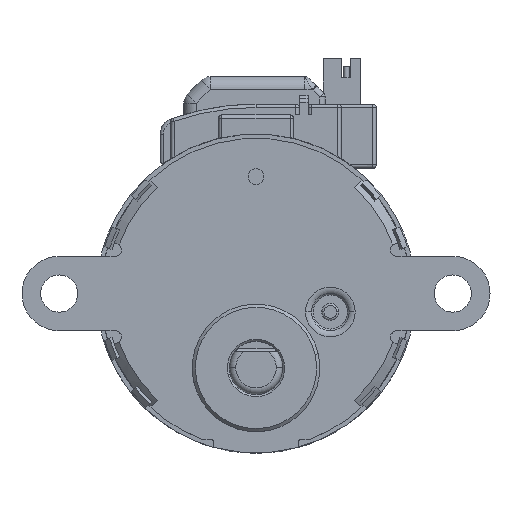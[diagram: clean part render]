
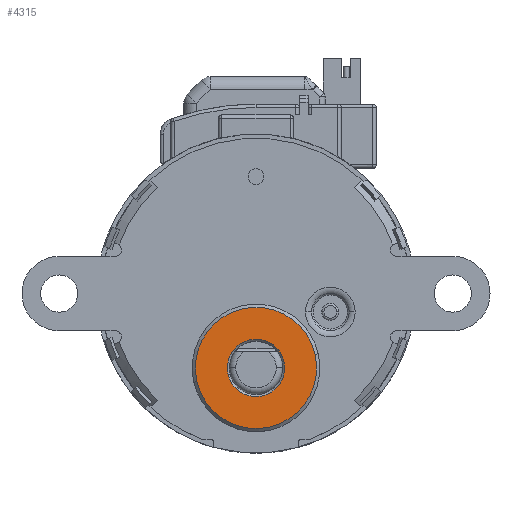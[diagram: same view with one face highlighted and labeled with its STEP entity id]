
A CAD part, top view. The second image highlights one B-rep face of the part: STEP entity #4315.
In plain terms, the highlighted planar face has unit normal (0, 0, 1).
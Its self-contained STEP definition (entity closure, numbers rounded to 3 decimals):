
#823 = EDGE_CURVE ( 'NONE', #4599, #3152, #9468, .T. ) ;
#864 = AXIS2_PLACEMENT_3D ( 'NONE', #8514, #5599, #4715 ) ;
#1273 = FACE_BOUND ( 'NONE', #9386, .T. ) ;
#1481 = CIRCLE ( 'NONE', #4502, 2.7 ) ;
#1693 = CARTESIAN_POINT ( 'NONE',  ( 0., -7., 20.5 ) ) ;
#1720 = EDGE_LOOP ( 'NONE', ( #3961, #10064 ) ) ;
#2042 = PLANE ( 'NONE',  #11708 ) ;
#2101 = FACE_OUTER_BOUND ( 'NONE', #1720, .T. ) ;
#2514 = EDGE_CURVE ( 'NONE', #8099, #9576, #1481, .T. ) ;
#2585 = EDGE_CURVE ( 'NONE', #3152, #4599, #2887, .T. ) ;
#2887 = CIRCLE ( 'NONE', #864, 5.7 ) ;
#3152 = VERTEX_POINT ( 'NONE', #8345 ) ;
#3293 = EDGE_CURVE ( 'NONE', #9576, #8099, #5137, .T. ) ;
#3470 = DIRECTION ( 'NONE',  ( 0., 0., -1. ) ) ;
#3961 = ORIENTED_EDGE ( 'NONE', *, *, #823, .T. ) ;
#4315 = ADVANCED_FACE ( 'NONE', ( #2101, #1273 ), #2042, .T. ) ;
#4502 = AXIS2_PLACEMENT_3D ( 'NONE', #4658, #5537, #12310 ) ;
#4599 = VERTEX_POINT ( 'NONE', #7530 ) ;
#4658 = CARTESIAN_POINT ( 'NONE',  ( 0., -7., 20.5 ) ) ;
#4715 = DIRECTION ( 'NONE',  ( 0.974, 0.226, 0. ) ) ;
#4759 = AXIS2_PLACEMENT_3D ( 'NONE', #9989, #10989, #5253 ) ;
#4940 = AXIS2_PLACEMENT_3D ( 'NONE', #1693, #3470, #7770 ) ;
#4955 = DIRECTION ( 'NONE',  ( 1., 0., 0. ) ) ;
#5137 = CIRCLE ( 'NONE', #4940, 2.7 ) ;
#5253 = DIRECTION ( 'NONE',  ( 0.974, 0.226, 0. ) ) ;
#5537 = DIRECTION ( 'NONE',  ( 0., 0., -1. ) ) ;
#5599 = DIRECTION ( 'NONE',  ( 0., 0., 1. ) ) ;
#6093 = CARTESIAN_POINT ( 'NONE',  ( -5.845, -8.354, 20.5 ) ) ;
#7530 = CARTESIAN_POINT ( 'NONE',  ( -5.553, -8.286, 20.5 ) ) ;
#7770 = DIRECTION ( 'NONE',  ( 0.974, 0.226, 0. ) ) ;
#8099 = VERTEX_POINT ( 'NONE', #10065 ) ;
#8345 = CARTESIAN_POINT ( 'NONE',  ( 5.553, -5.714, 20.5 ) ) ;
#8514 = CARTESIAN_POINT ( 'NONE',  ( 0., -7., 20.5 ) ) ;
#8930 = ORIENTED_EDGE ( 'NONE', *, *, #3293, .T. ) ;
#9386 = EDGE_LOOP ( 'NONE', ( #10180, #8930 ) ) ;
#9468 = CIRCLE ( 'NONE', #4759, 5.7 ) ;
#9576 = VERTEX_POINT ( 'NONE', #12382 ) ;
#9758 = DIRECTION ( 'NONE',  ( 0., 0., 1. ) ) ;
#9989 = CARTESIAN_POINT ( 'NONE',  ( 0., -7., 20.5 ) ) ;
#10064 = ORIENTED_EDGE ( 'NONE', *, *, #2585, .T. ) ;
#10065 = CARTESIAN_POINT ( 'NONE',  ( 2.63, -6.391, 20.5 ) ) ;
#10180 = ORIENTED_EDGE ( 'NONE', *, *, #2514, .T. ) ;
#10989 = DIRECTION ( 'NONE',  ( 0., 0., 1. ) ) ;
#11708 = AXIS2_PLACEMENT_3D ( 'NONE', #6093, #9758, #4955 ) ;
#12310 = DIRECTION ( 'NONE',  ( 0.974, 0.226, 0. ) ) ;
#12382 = CARTESIAN_POINT ( 'NONE',  ( -2.63, -7.609, 20.5 ) ) ;
